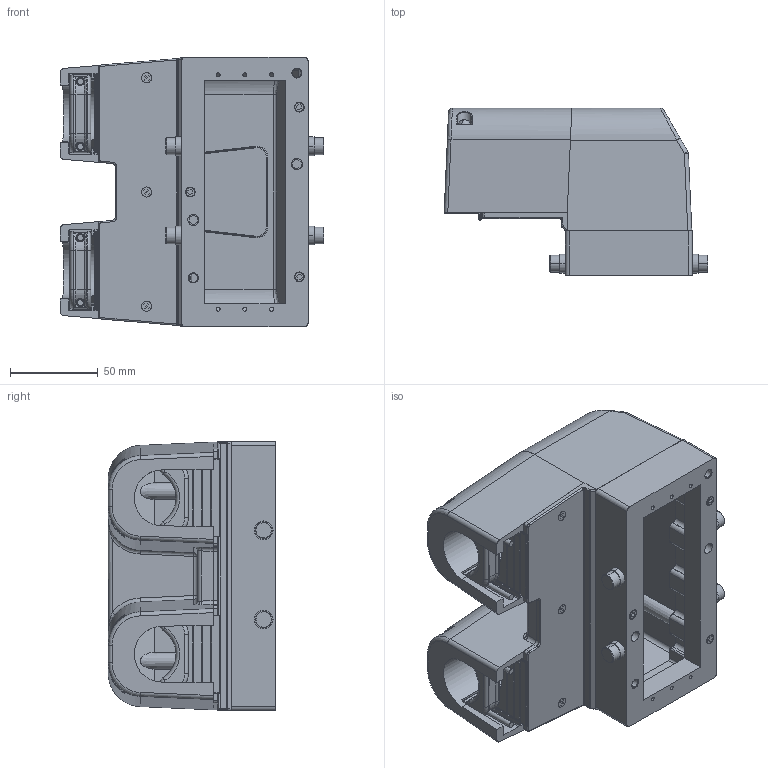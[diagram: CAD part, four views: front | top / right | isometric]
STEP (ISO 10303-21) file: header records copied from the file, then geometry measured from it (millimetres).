
FILE_DESCRIPTION (( 'STEP AP214' ), '1' );
FILE_NAME ('410104062CM.STEP', '2026-01-16T20:57:18', ( 'VPC Computer Systems' ), ( 'Virginia Panel Corporation' ), 'SwSTEP 2.0', 'SolidWorks 2025', '' );
FILE_SCHEMA (( 'AUTOMOTIVE_DESIGN' ));
Length unit declared in the file: inch
Products named in the file (1): 410104062CM
Bounding box: 150.06 x 95.25 x 153.16 mm (x, y, z)
Volume: 470633 mm3; surface area: 186722.1 mm2
Topology: 24 solids, 24 shells, 4112 faces, 11181 edges, 7238 vertices
Faces by surface type: bspline 1464, plane 1056, cylinder 1049, torus 338, cone 159, sphere 46
Entity records: 337826 total; most frequent: CARTESIAN_POINT 198147, ORIENTED_EDGE 22290, DIRECTION 13538, EDGE_CURVE 11145, VERTEX_POINT 7234, AXIS2_PLACEMENT_3D 5320, EDGE_LOOP 4331, ADVANCED_FACE 4112
